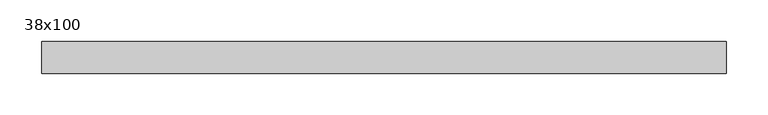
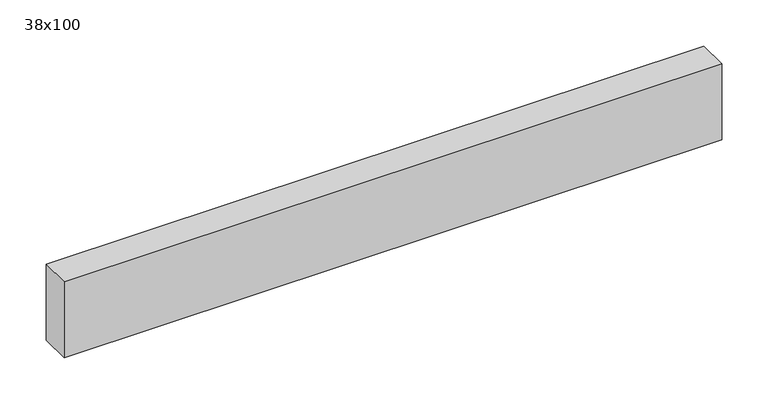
"""IFC4 building model written with IfcOpenShell, lengths in millimetres: beam geometry, Poutre - Bois de construction de dimensions courantes : 38x100."""

from ifc_helpers import new_model, si_unit, frame, origin, place, context, project, spatial, polyline, outline, extrude, source, transform, mapped, element, save


def beam_38x100_d7c8ef14(model_context):
    return source(origin(), model_context, "Body", "SweptSolid", [
        extrude(outline(polyline([(402.5, 19.05), (402.5, -19.05), (-416.5, -19.05), (-416.5, 19.05), (402.5, 19.05)])), frame((0.0, 0.0, -50.0), z_axis=(0.0, 0.0, 1.0), x_axis=(1.0, 0.0, 0.0)), (0.0, 0.0, 1.0), 100.0),
    ])


if __name__ == "__main__":
    model = new_model("IFC4")
    model_context = context("Model", 3, world=origin())
    ifc_project = project(units=[si_unit("LENGTHUNIT", "METRE", prefix="MILLI")], contexts=[model_context])
    site = spatial("IfcSite", under=ifc_project)
    building = spatial("IfcBuilding", under=site)
    placement = place(None, origin())
    beam_38x100_shape = beam_38x100_d7c8ef14(model_context)
    element("IfcBeam", 1, ObjectType="Poutre - Bois de construction de dimensions courantes : 38x100", at=placement, inside=building, context=model_context, shape_type="MappedRepresentation", body=[
        mapped(beam_38x100_shape, transform((0.0, 0.0, 0.0), x_axis=(1.0, 0.0, 0.0), y_axis=(0.0, 1.0, 0.0), z_axis=(0.0, 0.0, 1.0))),
    ])
    save(model, "model.ifc")
